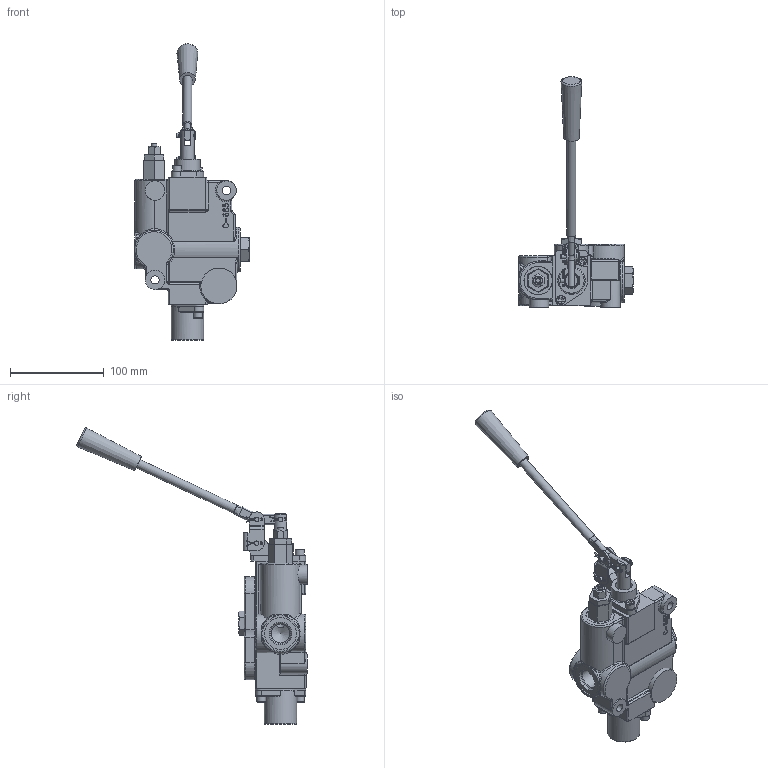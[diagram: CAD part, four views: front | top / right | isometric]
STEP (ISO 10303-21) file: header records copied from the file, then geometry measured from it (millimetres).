
FILE_DESCRIPTION((''),'2;1');
FILE_NAME('C:\Vault\Workspace\z_ShellModels\LV_LS30_RD25_RD41\RD412BA5A2B1_Shell.stp','2012-03-19T09:48:48',('PetersW'),(''),'Autodesk Inventor 2012','Autodesk Inventor 2012','');
FILE_SCHEMA(('AUTOMOTIVE_DESIGN { 1 0 10303 214 1 1 1 1 }'));
Length unit declared in the file: inch
Products named in the file (1): Part2
Bounding box: 122 x 245.43 x 315.95 mm (x, y, z)
Volume: 15594.1 mm3; surface area: 110758.9 mm2
Topology: 24 solids, 25 shells, 1147 faces, 2922 edges, 1822 vertices
Faces by surface type: plane 614, cylinder 258, cone 100, bspline 90, torus 76, sphere 9
Full cylindrical faces by diameter (mm): 2.381 x1, 2.388 x2, 4.343 x2, 4.661 x3, 4.75 x4, 4.801 x2, 4.826 x7, 4.978 x3, 6.096 x2, 6.35 x4, 6.401 x2, 6.731 x6, 7.137 x1, 7.798 x1, 7.925 x3, 8.712 x2, 9.525 x7, 9.931 x1, 13.462 x3, 14.275 x2, 15.875 x4, 15.913 x3, 16.688 x1, 16.764 x2, 17.45 x1, 17.475 x1, 17.501 x3, 17.78 x1, 19.088 x1, 19.634 x1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
Entity records: 37839 total; most frequent: CARTESIAN_POINT 10712, ORIENTED_EDGE 5266, DIRECTION 5189, EDGE_CURVE 2633, AXIS2_PLACEMENT_3D 1811, VERTEX_POINT 1731, VECTOR 1567, LINE 1567
